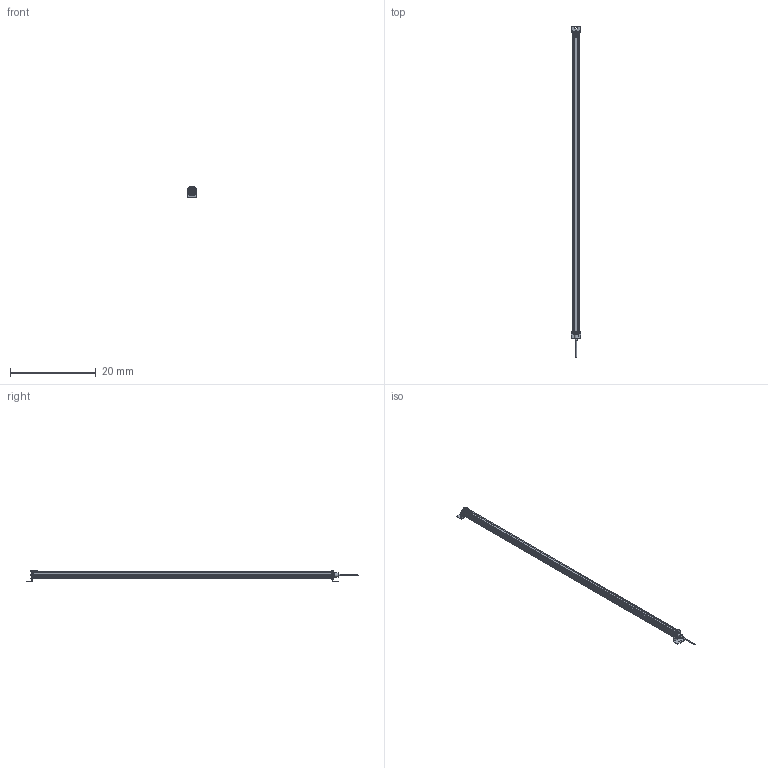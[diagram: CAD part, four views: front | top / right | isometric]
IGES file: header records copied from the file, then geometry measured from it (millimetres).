
Start section:  Autodesk DirectConnect version 7.0.27.0 ---- IGES version 5.3
Global section: file name: C:\ACADFILES\MG_PYLONS\CUSTOMER_FILES\MG-68-PYLON_3D_SMB.iges; native system: Autodesk DirectConnect 7.0.27.0; preprocessor: 7.0.27.0; author: ENGINEERMAIN; organization: Unknown; date: 20150810.143216; units: millimetre
Bounding box: 2.26 x 77.44 x 2.75 mm (x, y, z)
Surface area: 1076.1 mm2 (no closed solid volume)
Topology: 0 solids, 0 shells, 771 faces, 3970 edges, 3969 vertices
Faces by surface type: bspline 771
